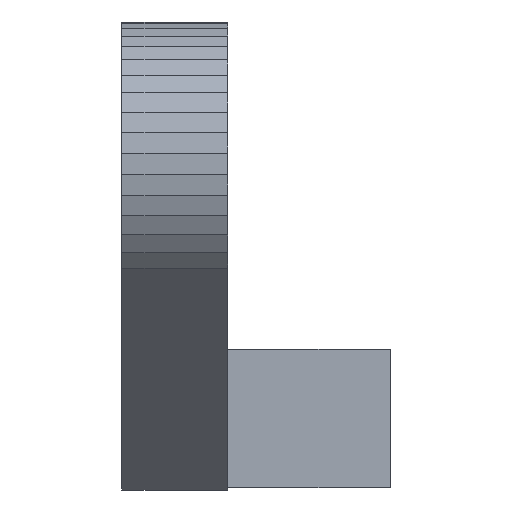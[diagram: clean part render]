
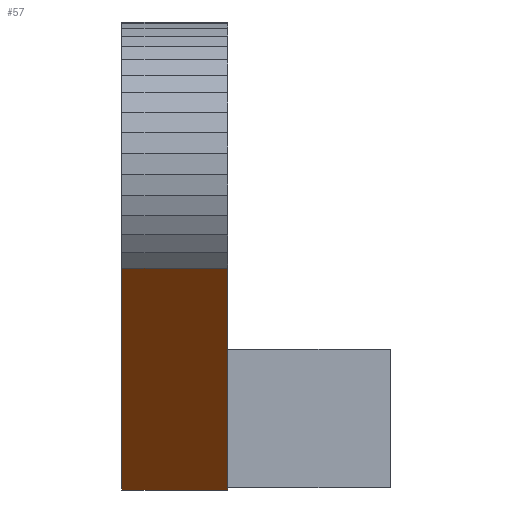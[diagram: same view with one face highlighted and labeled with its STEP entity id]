
A CAD part, left-side view. The second image highlights one B-rep face of the part: STEP entity #57.
In plain terms, the highlighted planar face has unit normal (-0.682, 0, -0.731).
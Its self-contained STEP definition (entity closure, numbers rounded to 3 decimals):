
#21 = EDGE_CURVE('',#22,#24,#26,.T.);
#22 = VERTEX_POINT('',#23);
#23 = CARTESIAN_POINT('',(-23.006,35.,48.987));
#24 = VERTEX_POINT('',#25);
#25 = CARTESIAN_POINT('',(-23.006,36.5,48.987));
#26 = LINE('',#27,#28);
#27 = CARTESIAN_POINT('',(-23.006,35.,48.987));
#28 = VECTOR('',#29,1.);
#29 = DIRECTION('',(0.,1.,0.));
#57 = ADVANCED_FACE('',(#58),#83,.T.);
#58 = FACE_BOUND('',#59,.T.);
#59 = EDGE_LOOP('',(#60,#70,#76,#77));
#60 = ORIENTED_EDGE('',*,*,#61,.T.);
#61 = EDGE_CURVE('',#62,#64,#66,.T.);
#62 = VERTEX_POINT('',#63);
#63 = CARTESIAN_POINT('',(-26.373,35.,52.128));
#64 = VERTEX_POINT('',#65);
#65 = CARTESIAN_POINT('',(-26.373,36.5,52.128));
#66 = LINE('',#67,#68);
#67 = CARTESIAN_POINT('',(-26.373,35.,52.128));
#68 = VECTOR('',#69,1.);
#69 = DIRECTION('',(0.,1.,0.));
#70 = ORIENTED_EDGE('',*,*,#71,.T.);
#71 = EDGE_CURVE('',#64,#24,#72,.T.);
#72 = LINE('',#73,#74);
#73 = CARTESIAN_POINT('',(-26.373,36.5,52.128));
#74 = VECTOR('',#75,1.);
#75 = DIRECTION('',(0.731,0.,-0.682));
#76 = ORIENTED_EDGE('',*,*,#21,.F.);
#77 = ORIENTED_EDGE('',*,*,#78,.F.);
#78 = EDGE_CURVE('',#62,#22,#79,.T.);
#79 = LINE('',#80,#81);
#80 = CARTESIAN_POINT('',(-26.373,35.,52.128));
#81 = VECTOR('',#82,1.);
#82 = DIRECTION('',(0.731,0.,-0.682));
#83 = PLANE('',#84);
#84 = AXIS2_PLACEMENT_3D('',#85,#86,#87);
#85 = CARTESIAN_POINT('',(-26.373,35.,52.128));
#86 = DIRECTION('',(-0.682,0.,-0.731));
#87 = DIRECTION('',(0.731,0.,-0.682));
